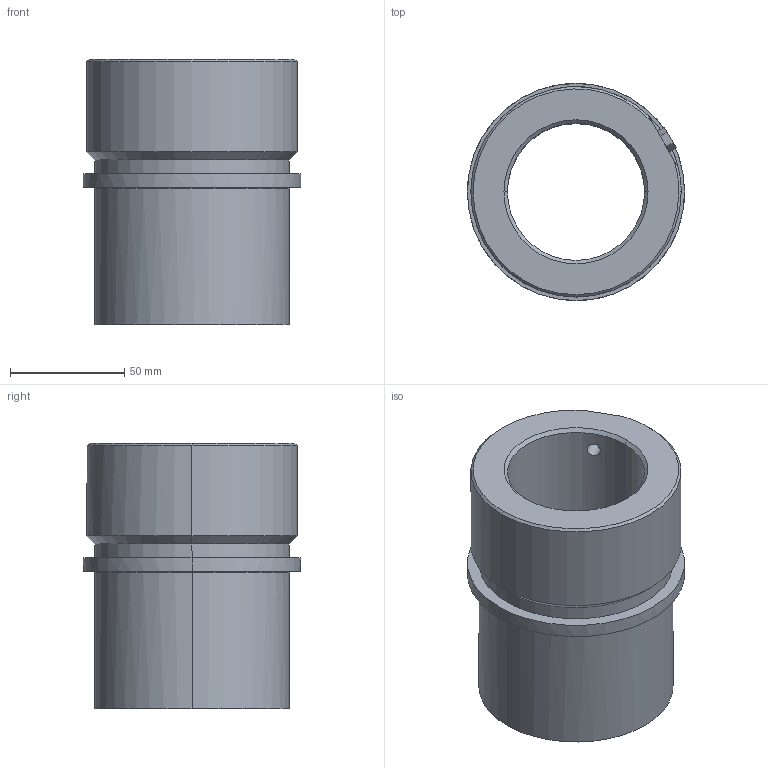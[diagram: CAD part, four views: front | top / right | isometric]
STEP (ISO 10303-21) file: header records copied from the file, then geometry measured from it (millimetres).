
FILE_DESCRIPTION(('CATIA V5 STEP Exchange'),'2;1');
FILE_NAME('C:\Users\Utente\Desktop\IO LAVORO\3D X SITO CF\X SITO\741\741-60.stp','2021-01-20T17:54:58+00:00',('none'),('none'),'CATIA Version 5 Release 20 GA (IN-10)','CATIA V5 STEP AP203','none');
FILE_SCHEMA(('CONFIG_CONTROL_DESIGN'));
Length unit declared in the file: millimetre
Products named in the file (1): 741-60
Assembly tree (1 placements, depth 2):
  741-60
    #58
Bounding box: 95 x 95 x 116 mm (x, y, z)
Volume: 378473.7 mm3; surface area: 64113.5 mm2
Topology: 1 solids, 1 shells, 42 faces, 93 edges, 58 vertices
Faces by surface type: plane 15, cylinder 14, cone 9, torus 4
Entity records: 1340 total; most frequent: CARTESIAN_POINT 372, ORIENTED_EDGE 186, DIRECTION 168, EDGE_CURVE 93, AXIS2_PLACEMENT_3D 81, VERTEX_POINT 58, EDGE_LOOP 49, VECTOR 44
